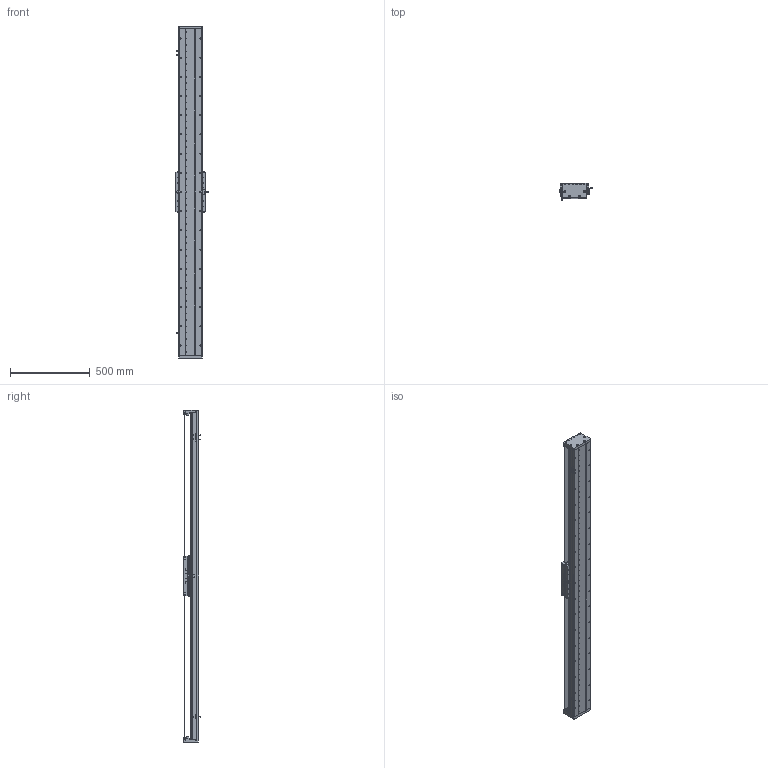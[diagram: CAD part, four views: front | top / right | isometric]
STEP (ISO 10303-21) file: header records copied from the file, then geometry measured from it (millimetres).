
FILE_DESCRIPTION (( 'STEP AP203' ), '1' );
FILE_NAME ('DA-C145-C3-T1740-C010-0.2 眻盄萇儂.STEP', '2025-08-14T01:28:20', ( '' ), ( '' ), 'SwSTEP 2.0', 'SolidWorks 2019', '' );
FILE_SCHEMA (( 'CONFIG_CONTROL_DESIGN' ));
Length unit declared in the file: millimetre
Products named in the file (32): 葩璃 DA145-C3-DP-A-00 菜えA^CU145-W 幗紩賑怢; DA-C145-C3-T1740-C010-0.2 眻盄萇儂; 复件 DA145 钢带^复件 CU145 钢带组件_DA-C145-C3-T-C010-0.2; 复件 DA95-DB-00  挡板^CU145-W 滚珠滑台; TAY01-M8; 葩璃 XD-U-02L 棠掑喜^DA-C145-C3-T-C010-0.2; 复件 DA145-C3-YB-B-00 压板B^CU145-W 滚珠滑台; 复件 DA146 钢带拉块^复件 CU145 钢带组件_DA-C145-C3-T-C010-0.2; CU145-W-00 珨极趙賑雄怢啣; 复件 DA145-C3-DK-00 挡块^CU145-W 滚珠滑台; 葩璃 DMA-010-0.2 黍杅芛^DA-C145-C3-T-C010-0.2; IU-CU145-L-00 菁釱(L2040); 葩璃 CU145 詩湍郪璃^DA-C145-C3-T-C010-0.2; IU-CU145-L 菁釱絳寢; 66245-CU145-HT-W-00 賑雄怢啣(3D芞祧)(00); 复件 DA146 钢带垫块^复件 CU145 钢带组件_DA-C145-C3-T-C010-0.2; 葩璃 DA145-C3-DP-B-00 菜えB^CU145-W 幗紩賑怢; 复件 DA145-DG 钢带端盖^复件 CU145 钢带组件_DA-C145-C3-T-C010-0.2; 葩璃 DA95-GT-T-00^IU-CU145-L 菁釱絳寢; 复件 内六角平端紧定螺钉 GB.T77-2000 M5×10^CU145-W 滚珠滑台; 复件 纯铜油杯 6x6mm^CU145-W 滚珠滑台; 复件 DA95-MFP-01 密封片^CU145-W 滚珠滑台; 葩璃 CKM03-W060-C1C2-TP-0.2^DA-C145-C3-T-C010-0.2; 复件 DA145-C3-YB-A-00 压板A^CU145-W 滚珠滑台; 葩璃 鞠褒情蹟譫 M3^DA-C145-C3-T-C010-0.2; 复件 DA145-GYP-00 光电感应片^DA-C145-C3-T-C010-0.2; 葩璃 CKMA01-W060-TRL^DA-C145-C3-T-C010-0.2; 复件 DA95-HK-GT-00 滑块钢轨^CU145-W-00 一体化滑动台板; 葩璃 PM-T45^DA-C145-C3-T-C010-0.2; 复件 半圆头内六角螺钉 M3×6^CU145-W 滚珠滑台; CU145-W 幗紩賑怢; 葩璃 DA95-HXJ-00 遣喳砎蝶^DA-C145-C3-T-C010-0.2
Assembly tree (103 placements, depth 4):
  DA-C145-C3-T1740-C010-0.2 眻盄萇儂
    IU-CU145-L 菁釱絳寢
      IU-CU145-L-00 菁釱(L2040)
      葩璃 DA95-GT-T-00^IU-CU145-L 菁釱絳寢  x4
    葩璃 CU145 詩湍郪璃^DA-C145-C3-T-C010-0.2
      复件 DA145-DG 钢带端盖^复件 CU145 钢带组件_DA-C145-C3-T-C010-0.2  x2
      复件 DA146 钢带拉块^复件 CU145 钢带组件_DA-C145-C3-T-C010-0.2  x2
      复件 DA146 钢带垫块^复件 CU145 钢带组件_DA-C145-C3-T-C010-0.2  x2
      复件 DA145 钢带^复件 CU145 钢带组件_DA-C145-C3-T-C010-0.2
    CU145-W 幗紩賑怢
      CU145-W-00 珨极趙賑雄怢啣
        66245-CU145-HT-W-00 賑雄怢啣(3D芞祧)(00)
        复件 DA95-HK-GT-00 滑块钢轨^CU145-W-00 一体化滑动台板  x8
      复件 DA95-MFP-01 密封片^CU145-W 滚珠滑台  x8
      复件 DA95-DB-00  挡板^CU145-W 滚珠滑台  x8
      复件 内六角平端紧定螺钉 GB.T77-2000 M5×10^CU145-W 滚珠滑台  x4
      复件 纯铜油杯 6x6mm^CU145-W 滚珠滑台  x4
      复件 半圆头内六角螺钉 M3×6^CU145-W 滚珠滑台  x16
      复件 DA145-C3-DK-00 挡块^CU145-W 滚珠滑台  x4
      葩璃 DA145-C3-DP-B-00 菜えB^CU145-W 幗紩賑怢  x2
      复件 DA145-C3-YB-B-00 压板B^CU145-W 滚珠滑台  x2
      葩璃 DA145-C3-DP-A-00 菜えA^CU145-W 幗紩賑怢  x3
      复件 DA145-C3-YB-A-00 压板A^CU145-W 滚珠滑台  x3
      TAY01-M8  x4
    葩璃 CKMA01-W060-TRL^DA-C145-C3-T-C010-0.2
    葩璃 PM-T45^DA-C145-C3-T-C010-0.2  x3
    葩璃 XD-U-02L 棠掑喜^DA-C145-C3-T-C010-0.2
    葩璃 DA95-HXJ-00 遣喳砎蝶^DA-C145-C3-T-C010-0.2  x4
    复件 DA145-GYP-00 光电感应片^DA-C145-C3-T-C010-0.2
    葩璃 DMA-010-0.2 黍杅芛^DA-C145-C3-T-C010-0.2
    葩璃 CKM03-W060-C1C2-TP-0.2^DA-C145-C3-T-C010-0.2
    葩璃 鞠褒情蹟譫 M3^DA-C145-C3-T-C010-0.2  x8
Bounding box: 203.5 x 108.45 x 2076 mm (x, y, z)
Volume: 10276797.2 mm3; surface area: 3356919.7 mm2
Topology: 99 solids, 131 shells, 4434 faces, 12350 edges, 7698 vertices
Faces by surface type: cylinder 2080, plane 1586, cone 690, torus 74, sphere 4
Entity records: 114432 total; most frequent: CARTESIAN_POINT 32352, ORIENTED_EDGE 16220, DIRECTION 15821, EDGE_CURVE 8110, AXIS2_PLACEMENT_3D 5934, VERTEX_POINT 5237, VECTOR 3953, LINE 3953
